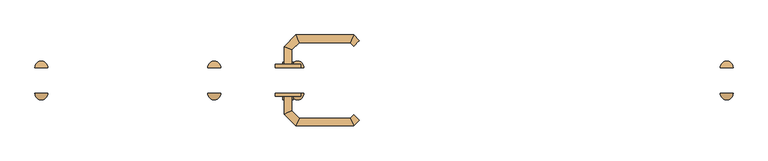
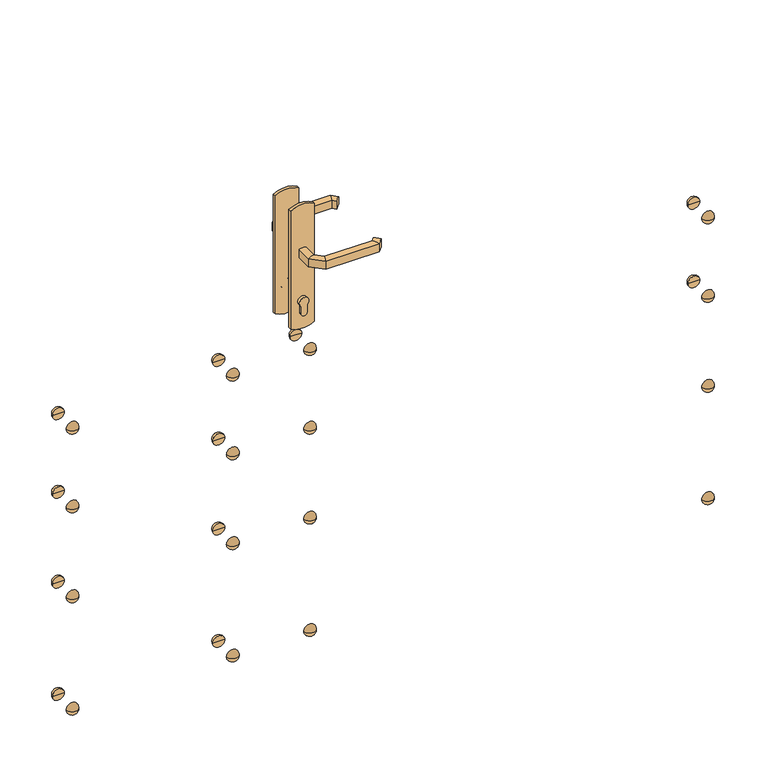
"""IFC4 building model written with IfcOpenShell, lengths in millimetres: door geometry, C&L Quercy tiercée mur simple : 120*275."""

from ifc_helpers import new_model, si_unit, point, frame, frame_2d, origin, place, context, project, spatial, polyline, circle_curve, ellipse_curve, trimmed, segment, composite_curve, outline, extrude, source, transform, mapped, element, save
from ifc_brep_helpers import plane_surface, cylinder_surface, revolved_surface, advanced_brep


def door_9bf19c87(model_context):
    return source(origin(), model_context, "Body", "SolidModel", [
        extrude(outline(composite_curve([segment(polyline([(808.0464422, -355.0), (795.0, -355.0)]), True, "CONTINUOUS"), segment(trimmed(circle_curve(frame_2d((795.0, -350.0)), 5.0), [point((795.0, -355.0))], [point((795.0, -345.0))], False, "CARTESIAN"), True, "CONTINUOUS"), segment(polyline([(795.0, -345.0), (808.0464422, -345.0)]), True, "CONTINUOUS"), segment(trimmed(circle_curve(frame_2d((814.2914402, -350.0)), 8.0), [point((808.0464422, -345.0))], [point((808.0464422, -355.0))], False, "CARTESIAN"), True, "CONTINUOUS")], self_intersect=False)), frame((0.0, 35.0, 0.0), z_axis=(0.0, 1.0, 0.0), x_axis=(0.0, 0.0, 1.0)), (0.0, 0.0, 1.0), 5.0),
        extrude(outline(composite_curve([segment(polyline([(808.0464422, -355.0), (795.0, -355.0)]), True, "CONTINUOUS"), segment(trimmed(circle_curve(frame_2d((795.0, -350.0)), 5.0), [point((795.0, -355.0))], [point((795.0, -345.0))], False, "CARTESIAN"), True, "CONTINUOUS"), segment(polyline([(795.0, -345.0), (808.0464422, -345.0)]), True, "CONTINUOUS"), segment(trimmed(circle_curve(frame_2d((814.2914402, -350.0)), 8.0), [point((808.0464422, -345.0))], [point((808.0464422, -355.0))], False, "CARTESIAN"), True, "CONTINUOUS")], self_intersect=False)), frame((0.0, 90.0, 0.0), z_axis=(0.0, 1.0, 0.0), x_axis=(0.0, 0.0, 1.0)), (0.0, 0.0, 1.0), 3.0),
        advanced_brep(
        [(-344.0, 40.0, 893.0), (-356.0, 40.0, 893.0), (-356.0, 40.0, 907.0), (-344.0, 40.0, 907.0), (-344.0, 17.5147955, 907.0), (-344.0, 17.5147955, 893.0), (-356.0, 12.5442327, 907.0), (-356.0, 12.5442327, 893.0), (-332.5147186, 6.0295141, 907.0), (-332.5147186, 6.0295141, 893.0), (-337.4852814, -5.9704859, 907.0), (-337.4852814, -5.9704859, 893.0), (-252.4394977, 6.0295141, 907.0), (-252.4394977, 6.0295141, 893.0), (-247.468935, -5.9704859, 907.0), (-247.468935, -5.9704859, 893.0), (-247.1257892, 11.3432226, 893.0), (-247.1257892, 11.3432226, 907.0), (-238.6405078, 2.8579412, 907.0), (-238.6405078, 2.8579412, 893.0)],
        [
            (0, 1, circle_curve(frame((-350.0, 40.0, 913.0457722), z_axis=(0.0, 1.0, 0.0), x_axis=(-1.0, 0.0, 0.0)), 20.9244589)),
            (1, 2),
            (2, 3, circle_curve(frame((-350.0, 40.0, 886.9542278), z_axis=(0.0, 1.0, 0.0), x_axis=(-1.0, 0.0, 0.0)), 20.9244589)),
            (3, 0),
            (3, 4),
            (4, 5),
            (5, 0),
            (2, 6),
            (6, 4, ellipse_curve(frame((-350.0, 15.0295141, 886.9542278), z_axis=(-0.3826834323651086, 0.923879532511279, 0.0), x_axis=(0.9238795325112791, 0.3826834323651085, 0.0)), 22.6484711, 20.9244589)),
            (1, 7),
            (7, 6),
            (5, 7, ellipse_curve(frame((-350.0, 15.0295141, 913.0457722), z_axis=(-0.3826834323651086, 0.923879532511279, 0.0), x_axis=(0.9238795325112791, 0.3826834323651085, 0.0)), 22.6484711, 20.9244589)),
            (4, 8),
            (8, 9),
            (9, 5),
            (6, 10),
            (10, 8, ellipse_curve(frame((-335.0, 0.0295141, 886.9542278), z_axis=(-0.9238795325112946, 0.3826834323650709, 0.0), x_axis=(0.3826834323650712, 0.9238795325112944, 0.0)), 22.6484711, 20.9244589)),
            (7, 11),
            (11, 10),
            (9, 11, ellipse_curve(frame((-335.0, 0.0295141, 913.0457722), z_axis=(-0.9238795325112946, 0.3826834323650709, 0.0), x_axis=(0.3826834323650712, 0.9238795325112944, 0.0)), 22.6484711, 20.9244589)),
            (8, 12),
            (12, 13),
            (13, 9),
            (10, 14),
            (14, 12, ellipse_curve(frame((-249.9542163, 0.0295141, 886.9542278), z_axis=(-0.9238795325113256, -0.3826834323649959, 0.0), x_axis=(-0.38268343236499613, 0.9238795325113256, 0.0)), 22.6484711, 20.9244589)),
            (11, 15),
            (15, 14),
            (13, 15, ellipse_curve(frame((-249.9542163, 0.0295141, 913.0457722), z_axis=(-0.9238795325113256, -0.3826834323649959, 0.0), x_axis=(-0.38268343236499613, 0.9238795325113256, 0.0)), 22.6484711, 20.9244589)),
            (16, 17),
            (17, 18, circle_curve(frame((-242.8831485, 7.1005819, 886.9542278), z_axis=(0.7071067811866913, 0.7071067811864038, 0.0), x_axis=(0.7071067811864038, -0.7071067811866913, 0.0)), 20.9244589)),
            (18, 19),
            (19, 16, circle_curve(frame((-242.8831485, 7.1005819, 913.0457722), z_axis=(0.7071067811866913, 0.7071067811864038, 0.0), x_axis=(0.7071067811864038, -0.7071067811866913, 0.0)), 20.9244589)),
            (12, 17),
            (16, 13),
            (14, 18),
            (15, 19),
        ],
        [
            plane_surface(frame((-359.2195445, 40.0, 900.0), z_axis=(0.0, 1.0, 0.0), x_axis=(0.0, 0.0, 1.0))),
            plane_surface(frame((-344.0, 40.0, 893.0), z_axis=(1.0, 0.0, 0.0), x_axis=(0.0, -1.0, 0.0))),
            cylinder_surface(frame((-350.0, 40.0, 886.9542278), z_axis=(0.0, 1.0, 0.0), x_axis=(-1.0, 0.0, 0.0)), 20.9244589),
            plane_surface(frame((-356.0, 40.0, 907.0), z_axis=(-1.0, 0.0, 0.0), x_axis=(0.0, -1.0, 0.0))),
            cylinder_surface(frame((-350.0, 40.0, 913.0457722), z_axis=(0.0, 1.0, 0.0), x_axis=(-1.0, 0.0, 0.0)), 20.9244589),
            plane_surface(frame((-344.0, 17.5147955, 893.0), z_axis=(0.7071067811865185, 0.7071067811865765, 0.0), x_axis=(0.7071067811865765, -0.7071067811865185, 0.0))),
            cylinder_surface(frame((-350.0, 15.0295141, 886.9542278), z_axis=(-0.7071067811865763, 0.7071067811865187, 0.0), x_axis=(-0.7071067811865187, -0.7071067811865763, 0.0)), 20.9244589),
            plane_surface(frame((-356.0, 12.5442327, 907.0), z_axis=(-0.7071067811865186, -0.7071067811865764, 0.0), x_axis=(0.7071067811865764, -0.7071067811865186, 0.0))),
            cylinder_surface(frame((-350.0, 15.0295141, 913.0457722), z_axis=(-0.7071067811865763, 0.7071067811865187, 0.0), x_axis=(-0.7071067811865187, -0.7071067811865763, 0.0)), 20.9244589),
            plane_surface(frame((-332.5147186, 6.0295141, 893.0), z_axis=(0.0, 1.0, 0.0), x_axis=(1.0, 0.0, 0.0))),
            cylinder_surface(frame((-335.0, 0.0295141, 886.9542278), z_axis=(-1.0, 0.0, 0.0), x_axis=(0.0, -1.0, 0.0)), 20.9244589),
            plane_surface(frame((-337.4852814, -5.9704859, 907.0), z_axis=(0.0, -1.0, 0.0), x_axis=(1.0, 0.0, 0.0))),
            cylinder_surface(frame((-335.0, 0.0295141, 913.0457722), z_axis=(-1.0, 0.0, 0.0), x_axis=(0.0, -1.0, 0.0)), 20.9244589),
            plane_surface(frame((-242.8831485, 7.1005819, 890.7804555), z_axis=(0.7071067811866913, 0.7071067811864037, 0.0), x_axis=(0.7071067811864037, -0.7071067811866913, 0.0))),
            plane_surface(frame((-252.4394977, 6.0295141, 893.0), z_axis=(-0.7071067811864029, 0.7071067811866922, 0.0), x_axis=(0.7071067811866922, 0.7071067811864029, 0.0))),
            cylinder_surface(frame((-249.9542163, 0.0295141, 886.9542278), z_axis=(-0.7071067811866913, -0.7071067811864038, 0.0), x_axis=(0.7071067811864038, -0.7071067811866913, 0.0)), 20.9244589),
            plane_surface(frame((-247.468935, -5.9704859, 907.0), z_axis=(0.7071067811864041, -0.7071067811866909, 0.0), x_axis=(0.7071067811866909, 0.7071067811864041, 0.0))),
            cylinder_surface(frame((-249.9542163, 0.0295141, 913.0457722), z_axis=(-0.7071067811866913, -0.7071067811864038, 0.0), x_axis=(0.7071067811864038, -0.7071067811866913, 0.0)), 20.9244589),
        ],
        [
            (0, [[1, 2, 3, 4]]),
            (1, [[5, 6, 7, -4]]),
            (2, [[8, 9, -5, -3]]),
            (3, [[10, 11, -8, -2]]),
            (4, [[-7, 12, -10, -1]]),
            (5, [[13, 14, 15, -6]]),
            (6, [[16, 17, -13, -9]]),
            (7, [[18, 19, -16, -11]]),
            (8, [[-15, 20, -18, -12]]),
            (9, [[21, 22, 23, -14]]),
            (10, [[24, 25, -21, -17]]),
            (11, [[26, 27, -24, -19]]),
            (12, [[-23, 28, -26, -20]]),
            (13, [[29, 30, 31, 32]]),
            (14, [[33, -29, 34, -22]]),
            (15, [[35, -30, -33, -25]]),
            (16, [[36, -31, -35, -27]]),
            (17, [[-34, -32, -36, -28]]),
        ],
    ),
        advanced_brep(
        [(-356.0, 90.0, 907.0), (-356.0, 90.0, 893.0), (-344.0, 90.0, 893.0), (-344.0, 90.0, 907.0), (-344.0, 112.680388, 907.0), (-356.0, 117.6509507, 907.0), (-344.0, 112.680388, 893.0), (-356.0, 117.6509507, 893.0), (-332.6522273, 124.0281607, 907.0), (-337.62279, 136.0281607, 907.0), (-332.6522273, 124.0281607, 893.0), (-337.62279, 136.0281607, 893.0), (-252.4666408, 124.0281607, 907.0), (-247.496078, 136.0281607, 907.0), (-252.4666408, 124.0281607, 893.0), (-247.496078, 136.0281607, 893.0), (-238.6676509, 127.1997336, 907.0), (-247.1529323, 118.7144522, 907.0), (-247.1529323, 118.7144522, 893.0), (-238.6676509, 127.1997336, 893.0)],
        [
            (0, 1),
            (1, 2, circle_curve(frame((-350.0, 90.0, 913.0457722), z_axis=(0.0, -1.0, 0.0), x_axis=(1.0, 0.0, 0.0)), 20.9244589)),
            (2, 3),
            (3, 0, circle_curve(frame((-350.0, 90.0, 886.9542278), z_axis=(0.0, -1.0, 0.0), x_axis=(1.0, 0.0, 0.0)), 20.9244589)),
            (3, 4),
            (4, 5, ellipse_curve(frame((-350.0, 115.1656693, 886.9542278), z_axis=(-0.3826834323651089, -0.9238795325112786, 0.0), x_axis=(0.9238795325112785, -0.3826834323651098, 0.0)), 22.6484711, 20.9244589)),
            (5, 0),
            (2, 6),
            (6, 4),
            (1, 7),
            (7, 6, ellipse_curve(frame((-350.0, 115.1656693, 913.0457722), z_axis=(-0.3826834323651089, -0.9238795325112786, 0.0), x_axis=(0.9238795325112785, -0.3826834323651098, 0.0)), 22.6484711, 20.9244589)),
            (5, 7),
            (4, 8),
            (8, 9, ellipse_curve(frame((-335.1375086, 130.0281607, 886.9542278), z_axis=(-0.9238795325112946, -0.3826834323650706, 0.0), x_axis=(0.3826834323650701, -0.9238795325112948, 0.0)), 22.6484711, 20.9244589)),
            (9, 5),
            (6, 10),
            (10, 8),
            (7, 11),
            (11, 10, ellipse_curve(frame((-335.1375086, 130.0281607, 913.0457722), z_axis=(-0.9238795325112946, -0.3826834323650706, 0.0), x_axis=(0.3826834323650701, -0.9238795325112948, 0.0)), 22.6484711, 20.9244589)),
            (9, 11),
            (8, 12),
            (12, 13, ellipse_curve(frame((-249.9813594, 130.0281607, 886.9542278), z_axis=(-0.9238795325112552, 0.3826834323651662, 0.0), x_axis=(-0.3826834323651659, -0.9238795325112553, 0.0)), 22.6484711, 20.9244589)),
            (13, 9),
            (10, 14),
            (14, 12),
            (11, 15),
            (15, 14, ellipse_curve(frame((-249.9813594, 130.0281607, 913.0457722), z_axis=(-0.9238795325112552, 0.3826834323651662, 0.0), x_axis=(-0.3826834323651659, -0.9238795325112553, 0.0)), 22.6484711, 20.9244589)),
            (13, 15),
            (16, 17, circle_curve(frame((-242.9102916, 122.9570929, 886.9542278), z_axis=(0.7071067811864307, -0.7071067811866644, 0.0), x_axis=(-0.7071067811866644, -0.7071067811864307, 0.0)), 20.9244589)),
            (17, 18),
            (18, 19, circle_curve(frame((-242.9102916, 122.9570929, 913.0457722), z_axis=(0.7071067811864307, -0.7071067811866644, 0.0), x_axis=(-0.7071067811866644, -0.7071067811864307, 0.0)), 20.9244589)),
            (19, 16),
            (12, 17),
            (16, 13),
            (14, 18),
            (15, 19),
        ],
        [
            plane_surface(frame((-359.2195445, 90.0, 900.0), z_axis=(0.0, -1.0, 0.0), x_axis=(0.0, 0.0, -1.0))),
            cylinder_surface(frame((-350.0, 90.0, 886.9542278), z_axis=(0.0, -1.0, 0.0), x_axis=(1.0, 0.0, 0.0)), 20.9244589),
            plane_surface(frame((-344.0, 90.0, 907.0), z_axis=(1.0, 0.0, 0.0), x_axis=(0.0, 1.0, 0.0))),
            cylinder_surface(frame((-350.0, 90.0, 913.0457722), z_axis=(0.0, -1.0, 0.0), x_axis=(1.0, 0.0, 0.0)), 20.9244589),
            plane_surface(frame((-356.0, 90.0, 893.0), z_axis=(-1.0, 0.0, 0.0), x_axis=(0.0, 1.0, 0.0))),
            cylinder_surface(frame((-350.0, 115.1656693, 886.9542278), z_axis=(-0.7071067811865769, -0.7071067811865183, 0.0), x_axis=(0.7071067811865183, -0.7071067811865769, 0.0)), 20.9244589),
            plane_surface(frame((-344.0, 112.680388, 907.0), z_axis=(0.707106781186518, -0.7071067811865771, 0.0), x_axis=(0.7071067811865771, 0.707106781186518, 0.0))),
            cylinder_surface(frame((-350.0, 115.1656693, 913.0457722), z_axis=(-0.7071067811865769, -0.7071067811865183, 0.0), x_axis=(0.7071067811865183, -0.7071067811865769, 0.0)), 20.9244589),
            plane_surface(frame((-356.0, 117.6509507, 893.0), z_axis=(-0.7071067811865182, 0.7071067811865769, 0.0), x_axis=(0.7071067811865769, 0.7071067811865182, 0.0))),
            cylinder_surface(frame((-335.1375086, 130.0281607, 886.9542278), z_axis=(-1.0, 0.0, 0.0), x_axis=(0.0, -1.0, 0.0)), 20.9244589),
            plane_surface(frame((-332.6522273, 124.0281607, 907.0), z_axis=(0.0, -1.0, 0.0), x_axis=(1.0, 0.0, 0.0))),
            cylinder_surface(frame((-335.1375086, 130.0281607, 913.0457722), z_axis=(-1.0, 0.0, 0.0), x_axis=(0.0, -1.0, 0.0)), 20.9244589),
            plane_surface(frame((-337.62279, 136.0281607, 893.0), z_axis=(0.0, 1.0, 0.0), x_axis=(1.0, 0.0, 0.0))),
            plane_surface(frame((-242.9102916, 122.9570929, 909.2195445), z_axis=(0.7071067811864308, -0.7071067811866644, 0.0), x_axis=(0.7071067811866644, 0.7071067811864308, 0.0))),
            cylinder_surface(frame((-249.9813594, 130.0281607, 886.9542278), z_axis=(-0.7071067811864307, 0.7071067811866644, 0.0), x_axis=(-0.7071067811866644, -0.7071067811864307, 0.0)), 20.9244589),
            plane_surface(frame((-252.4666408, 124.0281607, 907.0), z_axis=(-0.7071067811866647, -0.7071067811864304, 0.0), x_axis=(0.7071067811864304, -0.7071067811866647, 0.0))),
            cylinder_surface(frame((-249.9813594, 130.0281607, 913.0457722), z_axis=(-0.7071067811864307, 0.7071067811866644, 0.0), x_axis=(-0.7071067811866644, -0.7071067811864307, 0.0)), 20.9244589),
            plane_surface(frame((-247.496078, 136.0281607, 893.0), z_axis=(0.7071067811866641, 0.707106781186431, 0.0), x_axis=(0.707106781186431, -0.7071067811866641, 0.0))),
        ],
        [
            (0, [[1, 2, 3, 4]]),
            (1, [[5, 6, 7, -4]]),
            (2, [[8, 9, -5, -3]]),
            (3, [[10, 11, -8, -2]]),
            (4, [[-7, 12, -10, -1]]),
            (5, [[13, 14, 15, -6]]),
            (6, [[16, 17, -13, -9]]),
            (7, [[18, 19, -16, -11]]),
            (8, [[-15, 20, -18, -12]]),
            (9, [[21, 22, 23, -14]]),
            (10, [[24, 25, -21, -17]]),
            (11, [[26, 27, -24, -19]]),
            (12, [[-23, 28, -26, -20]]),
            (13, [[29, 30, 31, 32]]),
            (14, [[33, -29, 34, -22]]),
            (15, [[35, -30, -33, -25]]),
            (16, [[36, -31, -35, -27]]),
            (17, [[-34, -32, -36, -28]]),
        ],
    ),
        extrude(outline(composite_curve([segment(trimmed(circle_curve(frame_2d((945.3589838, -350.0)), 40.0), [point((980.0, -330.0))], [point((980.0, -370.0))], False, "CARTESIAN"), True, "CONTINUOUS"), segment(polyline([(980.0, -370.0), (770.0, -370.0)]), True, "CONTINUOUS"), segment(trimmed(circle_curve(frame_2d((804.6410162, -350.0)), 40.0), [point((770.0, -370.0))], [point((770.0, -330.0))], False, "CARTESIAN"), True, "CONTINUOUS"), segment(polyline([(770.0, -330.0), (980.0, -330.0)]), True, "CONTINUOUS")], self_intersect=False)), frame((0.0, 40.0, 0.0), z_axis=(0.0, 1.0, 0.0), x_axis=(0.0, 0.0, 1.0)), (0.0, 0.0, 1.0), 5.0),
        extrude(outline(composite_curve([segment(trimmed(circle_curve(frame_2d((804.6410162, -350.0)), 40.0), [point((770.0, -370.0))], [point((770.0, -330.0))], False, "CARTESIAN"), True, "CONTINUOUS"), segment(polyline([(770.0, -330.0), (980.0, -330.0)]), True, "CONTINUOUS"), segment(trimmed(circle_curve(frame_2d((945.3589838, -350.0)), 40.0), [point((980.0, -330.0))], [point((980.0, -370.0))], False, "CARTESIAN"), True, "CONTINUOUS"), segment(polyline([(980.0, -370.0), (770.0, -370.0)]), True, "CONTINUOUS")], self_intersect=False)), frame((0.0, 85.0, 0.0), z_axis=(0.0, 1.0, 0.0), x_axis=(0.0, 0.0, 1.0)), (0.0, 0.0, 1.0), 5.0),
        advanced_brep(
        [(-725.0, 85.0, 720.0), (-735.0, 85.0, 720.0), (-745.0, 85.0, 720.0), (-735.0, 95.0, 720.0)],
        [
            (0, 1),
            (1, 2),
            (2, 0, circle_curve(frame((-735.0, 85.0, 720.0), z_axis=(0.0, -1.0, 0.0), x_axis=(-1.0, 0.0, 0.0)), 10.0)),
            (0, 2, circle_curve(frame((-735.0, 85.0, 720.0), z_axis=(0.0, -1.0, 0.0), x_axis=(-1.0, 0.0, 0.0)), 10.0)),
            (3, 0, circle_curve(frame((-735.0, 85.0, 720.0), z_axis=(0.0, 0.0, -1.0), x_axis=(0.0, 1.0, 0.0)), 10.0)),
            (2, 3, circle_curve(frame((-735.0, 85.0, 720.0), z_axis=(0.0, 0.0, -1.0), x_axis=(0.0, 1.0, 0.0)), 10.0)),
        ],
        [
            plane_surface(frame((-735.0, 85.0, 720.0), z_axis=(0.0, -1.0, 0.0), x_axis=(-1.0, 0.0, 0.0))),
            revolved_surface(trimmed(ellipse_curve(frame((-735.0, 85.0, 720.0), z_axis=(0.0, 0.0, -1.0), x_axis=(0.0, 1.0, 0.0)), 10.0, 10.0), [point((-745.0, 85.0, 720.0))], [point((-735.0, 95.0, 720.0))], True, "CARTESIAN"), (-735.0, -463.130768, 720.0), (0.0, 1.0, 0.0)),
        ],
        [
            (0, [[1, 2, 3]]),
            (0, [[-2, -1, 4]]),
            (1, [[5, -3, 6]]),
            (1, [[-6, -4, -5]]),
        ],
    ),
        advanced_brep(
        [(-735.0, 95.0, 580.0), (-725.0, 85.0, 580.0), (-745.0, 85.0, 580.0), (-735.0, 85.0, 580.0)],
        [
            (0, 1, circle_curve(frame((-735.0, 85.0, 580.0), z_axis=(0.0, 0.0, -1.0), x_axis=(0.0, 1.0, 0.0)), 10.0)),
            (1, 2, circle_curve(frame((-735.0, 85.0, 580.0), z_axis=(0.0, 1.0, 0.0), x_axis=(-1.0, 0.0, 0.0)), 10.0)),
            (2, 0, circle_curve(frame((-735.0, 85.0, 580.0), z_axis=(0.0, 0.0, -1.0), x_axis=(0.0, 1.0, 0.0)), 10.0)),
            (2, 1, circle_curve(frame((-735.0, 85.0, 580.0), z_axis=(0.0, 1.0, 0.0), x_axis=(-1.0, 0.0, 0.0)), 10.0)),
            (1, 3),
            (3, 2),
        ],
        [
            revolved_surface(trimmed(ellipse_curve(frame((-735.0, 85.0, 580.0), z_axis=(0.0, 0.0, -1.0), x_axis=(0.0, 1.0, 0.0)), 10.0, 10.0), [point((-745.0, 85.0, 580.0))], [point((-735.0, 95.0, 580.0))], True, "CARTESIAN"), (-735.0, -463.130768, 580.0), (0.0, 1.0, 0.0)),
            plane_surface(frame((-735.0, 85.0, 580.0), z_axis=(0.0, -1.0, 0.0), x_axis=(-1.0, 0.0, 0.0))),
        ],
        [
            (0, [[1, 2, 3]]),
            (0, [[-3, 4, -1]]),
            (1, [[5, 6, -2]]),
            (1, [[-6, -5, -4]]),
        ],
    ),
        advanced_brep(
        [(-725.0, 85.0, 420.0), (-735.0, 85.0, 420.0), (-745.0, 85.0, 420.0), (-735.0, 95.0, 420.0)],
        [
            (0, 1),
            (1, 2),
            (2, 0, circle_curve(frame((-735.0, 85.0, 420.0), z_axis=(0.0, -1.0, 0.0), x_axis=(-1.0, 0.0, 0.0)), 10.0)),
            (0, 2, circle_curve(frame((-735.0, 85.0, 420.0), z_axis=(0.0, -1.0, 0.0), x_axis=(-1.0, 0.0, 0.0)), 10.0)),
            (3, 0, circle_curve(frame((-735.0, 85.0, 420.0), z_axis=(0.0, 0.0, -1.0), x_axis=(0.0, 1.0, 0.0)), 10.0)),
            (2, 3, circle_curve(frame((-735.0, 85.0, 420.0), z_axis=(0.0, 0.0, -1.0), x_axis=(0.0, 1.0, 0.0)), 10.0)),
        ],
        [
            plane_surface(frame((-735.0, 85.0, 420.0), z_axis=(0.0, -1.0, 0.0), x_axis=(-1.0, 0.0, 0.0))),
            revolved_surface(trimmed(ellipse_curve(frame((-735.0, 85.0, 420.0), z_axis=(0.0, 0.0, -1.0), x_axis=(0.0, 1.0, 0.0)), 10.0, 10.0), [point((-745.0, 85.0, 420.0))], [point((-735.0, 95.0, 420.0))], True, "CARTESIAN"), (-735.0, -463.130768, 420.0), (0.0, 1.0, 0.0)),
        ],
        [
            (0, [[1, 2, 3]]),
            (0, [[-2, -1, 4]]),
            (1, [[5, -3, 6]]),
            (1, [[-6, -4, -5]]),
        ],
    ),
        advanced_brep(
        [(-725.0, 85.0, 220.0), (-735.0, 85.0, 220.0), (-745.0, 85.0, 220.0), (-735.0, 95.0, 220.0)],
        [
            (0, 1),
            (1, 2),
            (2, 0, circle_curve(frame((-735.0, 85.0, 220.0), z_axis=(0.0, -1.0, 0.0), x_axis=(-1.0, 0.0, 0.0)), 10.0)),
            (0, 2, circle_curve(frame((-735.0, 85.0, 220.0), z_axis=(0.0, -1.0, 0.0), x_axis=(-1.0, 0.0, 0.0)), 10.0)),
            (3, 0, circle_curve(frame((-735.0, 85.0, 220.0), z_axis=(0.0, 0.0, -1.0), x_axis=(0.0, 1.0, 0.0)), 10.0)),
            (2, 3, circle_curve(frame((-735.0, 85.0, 220.0), z_axis=(0.0, 0.0, -1.0), x_axis=(0.0, 1.0, 0.0)), 10.0)),
        ],
        [
            plane_surface(frame((-735.0, 85.0, 220.0), z_axis=(0.0, -1.0, 0.0), x_axis=(-1.0, 0.0, 0.0))),
            revolved_surface(trimmed(ellipse_curve(frame((-735.0, 85.0, 220.0), z_axis=(0.0, 0.0, -1.0), x_axis=(0.0, 1.0, 0.0)), 10.0, 10.0), [point((-745.0, 85.0, 220.0))], [point((-735.0, 95.0, 220.0))], True, "CARTESIAN"), (-735.0, -463.130768, 220.0), (0.0, 1.0, 0.0)),
        ],
        [
            (0, [[1, 2, 3]]),
            (0, [[-2, -1, 4]]),
            (1, [[5, -3, 6]]),
            (1, [[-6, -4, -5]]),
        ],
    ),
        advanced_brep(
        [(-455.0, 85.0, 720.0), (-465.0, 85.0, 720.0), (-475.0, 85.0, 720.0), (-465.0, 95.0, 720.0)],
        [
            (0, 1),
            (1, 2),
            (2, 0, circle_curve(frame((-465.0, 85.0, 720.0), z_axis=(0.0, -1.0, 0.0), x_axis=(-1.0, 0.0, 0.0)), 10.0)),
            (0, 2, circle_curve(frame((-465.0, 85.0, 720.0), z_axis=(0.0, -1.0, 0.0), x_axis=(-1.0, 0.0, 0.0)), 10.0)),
            (3, 0, circle_curve(frame((-465.0, 85.0, 720.0), z_axis=(0.0, 0.0, -1.0), x_axis=(0.0, 1.0, 0.0)), 10.0)),
            (2, 3, circle_curve(frame((-465.0, 85.0, 720.0), z_axis=(0.0, 0.0, -1.0), x_axis=(0.0, 1.0, 0.0)), 10.0)),
        ],
        [
            plane_surface(frame((-465.0, 85.0, 720.0), z_axis=(0.0, -1.0, 0.0), x_axis=(-1.0, 0.0, 0.0))),
            revolved_surface(trimmed(ellipse_curve(frame((-465.0, 85.0, 720.0), z_axis=(0.0, 0.0, -1.0), x_axis=(0.0, 1.0, 0.0)), 10.0, 10.0), [point((-475.0, 85.0, 720.0))], [point((-465.0, 95.0, 720.0))], True, "CARTESIAN"), (-465.0, -463.130768, 720.0), (0.0, 1.0, 0.0)),
        ],
        [
            (0, [[1, 2, 3]]),
            (0, [[-2, -1, 4]]),
            (1, [[5, -3, 6]]),
            (1, [[-6, -4, -5]]),
        ],
    ),
        advanced_brep(
        [(-465.0, 95.0, 580.0), (-455.0, 85.0, 580.0), (-475.0, 85.0, 580.0), (-465.0, 85.0, 580.0)],
        [
            (0, 1, circle_curve(frame((-465.0, 85.0, 580.0), z_axis=(0.0, 0.0, -1.0), x_axis=(0.0, 1.0, 0.0)), 10.0)),
            (1, 2, circle_curve(frame((-465.0, 85.0, 580.0), z_axis=(0.0, 1.0, 0.0), x_axis=(-1.0, 0.0, 0.0)), 10.0)),
            (2, 0, circle_curve(frame((-465.0, 85.0, 580.0), z_axis=(0.0, 0.0, -1.0), x_axis=(0.0, 1.0, 0.0)), 10.0)),
            (2, 1, circle_curve(frame((-465.0, 85.0, 580.0), z_axis=(0.0, 1.0, 0.0), x_axis=(-1.0, 0.0, 0.0)), 10.0)),
            (1, 3),
            (3, 2),
        ],
        [
            revolved_surface(trimmed(ellipse_curve(frame((-465.0, 85.0, 580.0), z_axis=(0.0, 0.0, -1.0), x_axis=(0.0, 1.0, 0.0)), 10.0, 10.0), [point((-475.0, 85.0, 580.0))], [point((-465.0, 95.0, 580.0))], True, "CARTESIAN"), (-465.0, -463.130768, 580.0), (0.0, 1.0, 0.0)),
            plane_surface(frame((-465.0, 85.0, 580.0), z_axis=(0.0, -1.0, 0.0), x_axis=(-1.0, 0.0, 0.0))),
        ],
        [
            (0, [[1, 2, 3]]),
            (0, [[-3, 4, -1]]),
            (1, [[5, 6, -2]]),
            (1, [[-6, -5, -4]]),
        ],
    ),
        advanced_brep(
        [(-455.0, 85.0, 420.0), (-465.0, 85.0, 420.0), (-475.0, 85.0, 420.0), (-465.0, 95.0, 420.0)],
        [
            (0, 1),
            (1, 2),
            (2, 0, circle_curve(frame((-465.0, 85.0, 420.0), z_axis=(0.0, -1.0, 0.0), x_axis=(-1.0, 0.0, 0.0)), 10.0)),
            (0, 2, circle_curve(frame((-465.0, 85.0, 420.0), z_axis=(0.0, -1.0, 0.0), x_axis=(-1.0, 0.0, 0.0)), 10.0)),
            (3, 0, circle_curve(frame((-465.0, 85.0, 420.0), z_axis=(0.0, 0.0, -1.0), x_axis=(0.0, 1.0, 0.0)), 10.0)),
            (2, 3, circle_curve(frame((-465.0, 85.0, 420.0), z_axis=(0.0, 0.0, -1.0), x_axis=(0.0, 1.0, 0.0)), 10.0)),
        ],
        [
            plane_surface(frame((-465.0, 85.0, 420.0), z_axis=(0.0, -1.0, 0.0), x_axis=(-1.0, 0.0, 0.0))),
            revolved_surface(trimmed(ellipse_curve(frame((-465.0, 85.0, 420.0), z_axis=(0.0, 0.0, -1.0), x_axis=(0.0, 1.0, 0.0)), 10.0, 10.0), [point((-475.0, 85.0, 420.0))], [point((-465.0, 95.0, 420.0))], True, "CARTESIAN"), (-465.0, -463.130768, 420.0), (0.0, 1.0, 0.0)),
        ],
        [
            (0, [[1, 2, 3]]),
            (0, [[-2, -1, 4]]),
            (1, [[5, -3, 6]]),
            (1, [[-6, -4, -5]]),
        ],
    ),
        advanced_brep(
        [(-455.0, 85.0, 220.0), (-465.0, 85.0, 220.0), (-475.0, 85.0, 220.0), (-465.0, 95.0, 220.0)],
        [
            (0, 1),
            (1, 2),
            (2, 0, circle_curve(frame((-465.0, 85.0, 220.0), z_axis=(0.0, -1.0, 0.0), x_axis=(-1.0, 0.0, 0.0)), 10.0)),
            (0, 2, circle_curve(frame((-465.0, 85.0, 220.0), z_axis=(0.0, -1.0, 0.0), x_axis=(-1.0, 0.0, 0.0)), 10.0)),
            (3, 0, circle_curve(frame((-465.0, 85.0, 220.0), z_axis=(0.0, 0.0, -1.0), x_axis=(0.0, 1.0, 0.0)), 10.0)),
            (2, 3, circle_curve(frame((-465.0, 85.0, 220.0), z_axis=(0.0, 0.0, -1.0), x_axis=(0.0, 1.0, 0.0)), 10.0)),
        ],
        [
            plane_surface(frame((-465.0, 85.0, 220.0), z_axis=(0.0, -1.0, 0.0), x_axis=(-1.0, 0.0, 0.0))),
            revolved_surface(trimmed(ellipse_curve(frame((-465.0, 85.0, 220.0), z_axis=(0.0, 0.0, -1.0), x_axis=(0.0, 1.0, 0.0)), 10.0, 10.0), [point((-475.0, 85.0, 220.0))], [point((-465.0, 95.0, 220.0))], True, "CARTESIAN"), (-465.0, -463.130768, 220.0), (0.0, 1.0, 0.0)),
        ],
        [
            (0, [[1, 2, 3]]),
            (0, [[-2, -1, 4]]),
            (1, [[5, -3, 6]]),
            (1, [[-6, -4, -5]]),
        ],
    ),
        advanced_brep(
        [(-735.0, 35.0, 720.0), (-745.0, 45.0, 720.0), (-725.0, 45.0, 720.0), (-735.0, 45.0, 720.0)],
        [
            (0, 1, circle_curve(frame((-735.0, 45.0, 720.0), z_axis=(0.0, 0.0, -1.0), x_axis=(0.0, 1.0, 0.0)), 10.0)),
            (1, 2, circle_curve(frame((-735.0, 45.0, 720.0), z_axis=(0.0, -1.0, 0.0), x_axis=(1.0, 0.0, 0.0)), 10.0)),
            (2, 0, circle_curve(frame((-735.0, 45.0, 720.0), z_axis=(0.0, 0.0, -1.0), x_axis=(0.0, 1.0, 0.0)), 10.0)),
            (2, 1, circle_curve(frame((-735.0, 45.0, 720.0), z_axis=(0.0, -1.0, 0.0), x_axis=(1.0, 0.0, 0.0)), 10.0)),
            (1, 3),
            (3, 2),
        ],
        [
            revolved_surface(trimmed(ellipse_curve(frame((-735.0, 45.0, 720.0), z_axis=(0.0, 0.0, -1.0), x_axis=(0.0, 1.0, 0.0)), 10.0, 10.0), [point((-725.0, 45.0, 720.0))], [point((-735.0, 35.0, 720.0))], True, "CARTESIAN"), (-735.0, -463.130768, 720.0), (0.0, -1.0, 0.0)),
            plane_surface(frame((-735.0, 45.0, 720.0), z_axis=(0.0, 1.0, 0.0), x_axis=(1.0, 0.0, 0.0))),
        ],
        [
            (0, [[1, 2, 3]]),
            (0, [[-3, 4, -1]]),
            (1, [[5, 6, -2]]),
            (1, [[-6, -5, -4]]),
        ],
    ),
        advanced_brep(
        [(-735.0, 35.0, 580.0), (-745.0, 45.0, 580.0), (-725.0, 45.0, 580.0), (-735.0, 45.0, 580.0)],
        [
            (0, 1, circle_curve(frame((-735.0, 45.0, 580.0), z_axis=(0.0, 0.0, -1.0), x_axis=(0.0, 1.0, 0.0)), 10.0)),
            (1, 2, circle_curve(frame((-735.0, 45.0, 580.0), z_axis=(0.0, -1.0, 0.0), x_axis=(1.0, 0.0, 0.0)), 10.0)),
            (2, 0, circle_curve(frame((-735.0, 45.0, 580.0), z_axis=(0.0, 0.0, -1.0), x_axis=(0.0, 1.0, 0.0)), 10.0)),
            (2, 1, circle_curve(frame((-735.0, 45.0, 580.0), z_axis=(0.0, -1.0, 0.0), x_axis=(1.0, 0.0, 0.0)), 10.0)),
            (1, 3),
            (3, 2),
        ],
        [
            revolved_surface(trimmed(ellipse_curve(frame((-735.0, 45.0, 580.0), z_axis=(0.0, 0.0, -1.0), x_axis=(0.0, 1.0, 0.0)), 10.0, 10.0), [point((-725.0, 45.0, 580.0))], [point((-735.0, 35.0, 580.0))], True, "CARTESIAN"), (-735.0, -463.130768, 580.0), (0.0, -1.0, 0.0)),
            plane_surface(frame((-735.0, 45.0, 580.0), z_axis=(0.0, 1.0, 0.0), x_axis=(1.0, 0.0, 0.0))),
        ],
        [
            (0, [[1, 2, 3]]),
            (0, [[-3, 4, -1]]),
            (1, [[5, 6, -2]]),
            (1, [[-6, -5, -4]]),
        ],
    ),
        advanced_brep(
        [(-735.0, 35.0, 420.0), (-745.0, 45.0, 420.0), (-725.0, 45.0, 420.0), (-735.0, 45.0, 420.0)],
        [
            (0, 1, circle_curve(frame((-735.0, 45.0, 420.0), z_axis=(0.0, 0.0, -1.0), x_axis=(0.0, 1.0, 0.0)), 10.0)),
            (1, 2, circle_curve(frame((-735.0, 45.0, 420.0), z_axis=(0.0, -1.0, 0.0), x_axis=(1.0, 0.0, 0.0)), 10.0)),
            (2, 0, circle_curve(frame((-735.0, 45.0, 420.0), z_axis=(0.0, 0.0, -1.0), x_axis=(0.0, 1.0, 0.0)), 10.0)),
            (2, 1, circle_curve(frame((-735.0, 45.0, 420.0), z_axis=(0.0, -1.0, 0.0), x_axis=(1.0, 0.0, 0.0)), 10.0)),
            (1, 3),
            (3, 2),
        ],
        [
            revolved_surface(trimmed(ellipse_curve(frame((-735.0, 45.0, 420.0), z_axis=(0.0, 0.0, -1.0), x_axis=(0.0, 1.0, 0.0)), 10.0, 10.0), [point((-725.0, 45.0, 420.0))], [point((-735.0, 35.0, 420.0))], True, "CARTESIAN"), (-735.0, -463.130768, 420.0), (0.0, -1.0, 0.0)),
            plane_surface(frame((-735.0, 45.0, 420.0), z_axis=(0.0, 1.0, 0.0), x_axis=(1.0, 0.0, 0.0))),
        ],
        [
            (0, [[1, 2, 3]]),
            (0, [[-3, 4, -1]]),
            (1, [[5, 6, -2]]),
            (1, [[-6, -5, -4]]),
        ],
    ),
        advanced_brep(
        [(-745.0, 45.0, 220.0), (-735.0, 45.0, 220.0), (-725.0, 45.0, 220.0), (-735.0, 35.0, 220.0)],
        [
            (0, 1),
            (1, 2),
            (2, 0, circle_curve(frame((-735.0, 45.0, 220.0), z_axis=(0.0, 1.0, 0.0), x_axis=(1.0, 0.0, 0.0)), 10.0)),
            (0, 2, circle_curve(frame((-735.0, 45.0, 220.0), z_axis=(0.0, 1.0, 0.0), x_axis=(1.0, 0.0, 0.0)), 10.0)),
            (3, 0, circle_curve(frame((-735.0, 45.0, 220.0), z_axis=(0.0, 0.0, -1.0), x_axis=(0.0, 1.0, 0.0)), 10.0)),
            (2, 3, circle_curve(frame((-735.0, 45.0, 220.0), z_axis=(0.0, 0.0, -1.0), x_axis=(0.0, 1.0, 0.0)), 10.0)),
        ],
        [
            plane_surface(frame((-735.0, 45.0, 220.0), z_axis=(0.0, 1.0, 0.0), x_axis=(1.0, 0.0, 0.0))),
            revolved_surface(trimmed(ellipse_curve(frame((-735.0, 45.0, 220.0), z_axis=(0.0, 0.0, -1.0), x_axis=(0.0, 1.0, 0.0)), 10.0, 10.0), [point((-725.0, 45.0, 220.0))], [point((-735.0, 35.0, 220.0))], True, "CARTESIAN"), (-735.0, -463.130768, 220.0), (0.0, -1.0, 0.0)),
        ],
        [
            (0, [[1, 2, 3]]),
            (0, [[-2, -1, 4]]),
            (1, [[5, -3, 6]]),
            (1, [[-6, -4, -5]]),
        ],
    ),
        advanced_brep(
        [(-465.0, 35.0, 720.0), (-475.0, 45.0, 720.0), (-455.0, 45.0, 720.0), (-465.0, 45.0, 720.0)],
        [
            (0, 1, circle_curve(frame((-465.0, 45.0, 720.0), z_axis=(0.0, 0.0, -1.0), x_axis=(0.0, 1.0, 0.0)), 10.0)),
            (1, 2, circle_curve(frame((-465.0, 45.0, 720.0), z_axis=(0.0, -1.0, 0.0), x_axis=(1.0, 0.0, 0.0)), 10.0)),
            (2, 0, circle_curve(frame((-465.0, 45.0, 720.0), z_axis=(0.0, 0.0, -1.0), x_axis=(0.0, 1.0, 0.0)), 10.0)),
            (2, 1, circle_curve(frame((-465.0, 45.0, 720.0), z_axis=(0.0, -1.0, 0.0), x_axis=(1.0, 0.0, 0.0)), 10.0)),
            (1, 3),
            (3, 2),
        ],
        [
            revolved_surface(trimmed(ellipse_curve(frame((-465.0, 45.0, 720.0), z_axis=(0.0, 0.0, -1.0), x_axis=(0.0, 1.0, 0.0)), 10.0, 10.0), [point((-455.0, 45.0, 720.0))], [point((-465.0, 35.0, 720.0))], True, "CARTESIAN"), (-465.0, -463.130768, 720.0), (0.0, -1.0, 0.0)),
            plane_surface(frame((-465.0, 45.0, 720.0), z_axis=(0.0, 1.0, 0.0), x_axis=(1.0, 0.0, 0.0))),
        ],
        [
            (0, [[1, 2, 3]]),
            (0, [[-3, 4, -1]]),
            (1, [[5, 6, -2]]),
            (1, [[-6, -5, -4]]),
        ],
    ),
        advanced_brep(
        [(-465.0, 35.0, 580.0), (-475.0, 45.0, 580.0), (-455.0, 45.0, 580.0), (-465.0, 45.0, 580.0)],
        [
            (0, 1, circle_curve(frame((-465.0, 45.0, 580.0), z_axis=(0.0, 0.0, -1.0), x_axis=(0.0, 1.0, 0.0)), 10.0)),
            (1, 2, circle_curve(frame((-465.0, 45.0, 580.0), z_axis=(0.0, -1.0, 0.0), x_axis=(1.0, 0.0, 0.0)), 10.0)),
            (2, 0, circle_curve(frame((-465.0, 45.0, 580.0), z_axis=(0.0, 0.0, -1.0), x_axis=(0.0, 1.0, 0.0)), 10.0)),
            (2, 1, circle_curve(frame((-465.0, 45.0, 580.0), z_axis=(0.0, -1.0, 0.0), x_axis=(1.0, 0.0, 0.0)), 10.0)),
            (1, 3),
            (3, 2),
        ],
        [
            revolved_surface(trimmed(ellipse_curve(frame((-465.0, 45.0, 580.0), z_axis=(0.0, 0.0, -1.0), x_axis=(0.0, 1.0, 0.0)), 10.0, 10.0), [point((-455.0, 45.0, 580.0))], [point((-465.0, 35.0, 580.0))], True, "CARTESIAN"), (-465.0, -463.130768, 580.0), (0.0, -1.0, 0.0)),
            plane_surface(frame((-465.0, 45.0, 580.0), z_axis=(0.0, 1.0, 0.0), x_axis=(1.0, 0.0, 0.0))),
        ],
        [
            (0, [[1, 2, 3]]),
            (0, [[-3, 4, -1]]),
            (1, [[5, 6, -2]]),
            (1, [[-6, -5, -4]]),
        ],
    ),
        advanced_brep(
        [(-465.0, 35.0, 420.0), (-475.0, 45.0, 420.0), (-455.0, 45.0, 420.0), (-465.0, 45.0, 420.0)],
        [
            (0, 1, circle_curve(frame((-465.0, 45.0, 420.0), z_axis=(0.0, 0.0, -1.0), x_axis=(0.0, 1.0, 0.0)), 10.0)),
            (1, 2, circle_curve(frame((-465.0, 45.0, 420.0), z_axis=(0.0, -1.0, 0.0), x_axis=(1.0, 0.0, 0.0)), 10.0)),
            (2, 0, circle_curve(frame((-465.0, 45.0, 420.0), z_axis=(0.0, 0.0, -1.0), x_axis=(0.0, 1.0, 0.0)), 10.0)),
            (2, 1, circle_curve(frame((-465.0, 45.0, 420.0), z_axis=(0.0, -1.0, 0.0), x_axis=(1.0, 0.0, 0.0)), 10.0)),
            (1, 3),
            (3, 2),
        ],
        [
            revolved_surface(trimmed(ellipse_curve(frame((-465.0, 45.0, 420.0), z_axis=(0.0, 0.0, -1.0), x_axis=(0.0, 1.0, 0.0)), 10.0, 10.0), [point((-455.0, 45.0, 420.0))], [point((-465.0, 35.0, 420.0))], True, "CARTESIAN"), (-465.0, -463.130768, 420.0), (0.0, -1.0, 0.0)),
            plane_surface(frame((-465.0, 45.0, 420.0), z_axis=(0.0, 1.0, 0.0), x_axis=(1.0, 0.0, 0.0))),
        ],
        [
            (0, [[1, 2, 3]]),
            (0, [[-3, 4, -1]]),
            (1, [[5, 6, -2]]),
            (1, [[-6, -5, -4]]),
        ],
    ),
        advanced_brep(
        [(-475.0, 45.0, 220.0), (-465.0, 45.0, 220.0), (-455.0, 45.0, 220.0), (-465.0, 35.0, 220.0)],
        [
            (0, 1),
            (1, 2),
            (2, 0, circle_curve(frame((-465.0, 45.0, 220.0), z_axis=(0.0, 1.0, 0.0), x_axis=(1.0, 0.0, 0.0)), 10.0)),
            (0, 2, circle_curve(frame((-465.0, 45.0, 220.0), z_axis=(0.0, 1.0, 0.0), x_axis=(1.0, 0.0, 0.0)), 10.0)),
            (3, 0, circle_curve(frame((-465.0, 45.0, 220.0), z_axis=(0.0, 0.0, -1.0), x_axis=(0.0, 1.0, 0.0)), 10.0)),
            (2, 3, circle_curve(frame((-465.0, 45.0, 220.0), z_axis=(0.0, 0.0, -1.0), x_axis=(0.0, 1.0, 0.0)), 10.0)),
        ],
        [
            plane_surface(frame((-465.0, 45.0, 220.0), z_axis=(0.0, 1.0, 0.0), x_axis=(1.0, 0.0, 0.0))),
            revolved_surface(trimmed(ellipse_curve(frame((-465.0, 45.0, 220.0), z_axis=(0.0, 0.0, -1.0), x_axis=(0.0, 1.0, 0.0)), 10.0, 10.0), [point((-455.0, 45.0, 220.0))], [point((-465.0, 35.0, 220.0))], True, "CARTESIAN"), (-465.0, -463.130768, 220.0), (0.0, -1.0, 0.0)),
        ],
        [
            (0, [[1, 2, 3]]),
            (0, [[-2, -1, 4]]),
            (1, [[5, -3, 6]]),
            (1, [[-6, -4, -5]]),
        ],
    ),
        advanced_brep(
        [(-335.0, 35.0, 720.0), (-345.0, 45.0, 720.0), (-325.0, 45.0, 720.0), (-335.0, 45.0, 720.0)],
        [
            (0, 1, circle_curve(frame((-335.0, 45.0, 720.0), z_axis=(0.0, 0.0, -1.0), x_axis=(0.0, 1.0, 0.0)), 10.0)),
            (1, 2, circle_curve(frame((-335.0, 45.0, 720.0), z_axis=(0.0, -1.0, 0.0), x_axis=(1.0, 0.0, 0.0)), 10.0)),
            (2, 0, circle_curve(frame((-335.0, 45.0, 720.0), z_axis=(0.0, 0.0, -1.0), x_axis=(0.0, 1.0, 0.0)), 10.0)),
            (2, 1, circle_curve(frame((-335.0, 45.0, 720.0), z_axis=(0.0, -1.0, 0.0), x_axis=(1.0, 0.0, 0.0)), 10.0)),
            (1, 3),
            (3, 2),
        ],
        [
            revolved_surface(trimmed(ellipse_curve(frame((-335.0, 45.0, 720.0), z_axis=(0.0, 0.0, -1.0), x_axis=(0.0, 1.0, 0.0)), 10.0, 10.0), [point((-325.0, 45.0, 720.0))], [point((-335.0, 35.0, 720.0))], True, "CARTESIAN"), (-335.0, -463.130768, 720.0), (0.0, -1.0, 0.0)),
            plane_surface(frame((-335.0, 45.0, 720.0), z_axis=(0.0, 1.0, 0.0), x_axis=(1.0, 0.0, 0.0))),
        ],
        [
            (0, [[1, 2, 3]]),
            (0, [[-3, 4, -1]]),
            (1, [[5, 6, -2]]),
            (1, [[-6, -5, -4]]),
        ],
    ),
        advanced_brep(
        [(335.0, 35.0, 720.0), (325.0, 45.0, 720.0), (345.0, 45.0, 720.0), (335.0, 45.0, 720.0)],
        [
            (0, 1, circle_curve(frame((335.0, 45.0, 720.0), z_axis=(0.0, 0.0, -1.0), x_axis=(0.0, 1.0, 0.0)), 10.0)),
            (1, 2, circle_curve(frame((335.0, 45.0, 720.0), z_axis=(0.0, -1.0, 0.0), x_axis=(1.0, 0.0, 0.0)), 10.0)),
            (2, 0, circle_curve(frame((335.0, 45.0, 720.0), z_axis=(0.0, 0.0, -1.0), x_axis=(0.0, 1.0, 0.0)), 10.0)),
            (2, 1, circle_curve(frame((335.0, 45.0, 720.0), z_axis=(0.0, -1.0, 0.0), x_axis=(1.0, 0.0, 0.0)), 10.0)),
            (1, 3),
            (3, 2),
        ],
        [
            revolved_surface(trimmed(ellipse_curve(frame((335.0, 45.0, 720.0), z_axis=(0.0, 0.0, -1.0), x_axis=(0.0, 1.0, 0.0)), 10.0, 10.0), [point((345.0, 45.0, 720.0))], [point((335.0, 35.0, 720.0))], True, "CARTESIAN"), (335.0, -463.130768, 720.0), (0.0, -1.0, 0.0)),
            plane_surface(frame((335.0, 45.0, 720.0), z_axis=(0.0, 1.0, 0.0), x_axis=(1.0, 0.0, 0.0))),
        ],
        [
            (0, [[1, 2, 3]]),
            (0, [[-3, 4, -1]]),
            (1, [[5, 6, -2]]),
            (1, [[-6, -5, -4]]),
        ],
    ),
        advanced_brep(
        [(335.0, 35.0, 580.0), (325.0, 45.0, 580.0), (345.0, 45.0, 580.0), (335.0, 45.0, 580.0)],
        [
            (0, 1, circle_curve(frame((335.0, 45.0, 580.0), z_axis=(0.0, 0.0, -1.0), x_axis=(0.0, 1.0, 0.0)), 10.0)),
            (1, 2, circle_curve(frame((335.0, 45.0, 580.0), z_axis=(0.0, -1.0, 0.0), x_axis=(1.0, 0.0, 0.0)), 10.0)),
            (2, 0, circle_curve(frame((335.0, 45.0, 580.0), z_axis=(0.0, 0.0, -1.0), x_axis=(0.0, 1.0, 0.0)), 10.0)),
            (2, 1, circle_curve(frame((335.0, 45.0, 580.0), z_axis=(0.0, -1.0, 0.0), x_axis=(1.0, 0.0, 0.0)), 10.0)),
            (1, 3),
            (3, 2),
        ],
        [
            revolved_surface(trimmed(ellipse_curve(frame((335.0, 45.0, 580.0), z_axis=(0.0, 0.0, -1.0), x_axis=(0.0, 1.0, 0.0)), 10.0, 10.0), [point((345.0, 45.0, 580.0))], [point((335.0, 35.0, 580.0))], True, "CARTESIAN"), (335.0, -463.130768, 580.0), (0.0, -1.0, 0.0)),
            plane_surface(frame((335.0, 45.0, 580.0), z_axis=(0.0, 1.0, 0.0), x_axis=(1.0, 0.0, 0.0))),
        ],
        [
            (0, [[1, 2, 3]]),
            (0, [[-3, 4, -1]]),
            (1, [[5, 6, -2]]),
            (1, [[-6, -5, -4]]),
        ],
    ),
        advanced_brep(
        [(-335.0, 35.0, 580.0), (-345.0, 45.0, 580.0), (-325.0, 45.0, 580.0), (-335.0, 45.0, 580.0)],
        [
            (0, 1, circle_curve(frame((-335.0, 45.0, 580.0), z_axis=(0.0, 0.0, -1.0), x_axis=(0.0, 1.0, 0.0)), 10.0)),
            (1, 2, circle_curve(frame((-335.0, 45.0, 580.0), z_axis=(0.0, -1.0, 0.0), x_axis=(1.0, 0.0, 0.0)), 10.0)),
            (2, 0, circle_curve(frame((-335.0, 45.0, 580.0), z_axis=(0.0, 0.0, -1.0), x_axis=(0.0, 1.0, 0.0)), 10.0)),
            (2, 1, circle_curve(frame((-335.0, 45.0, 580.0), z_axis=(0.0, -1.0, 0.0), x_axis=(1.0, 0.0, 0.0)), 10.0)),
            (1, 3),
            (3, 2),
        ],
        [
            revolved_surface(trimmed(ellipse_curve(frame((-335.0, 45.0, 580.0), z_axis=(0.0, 0.0, -1.0), x_axis=(0.0, 1.0, 0.0)), 10.0, 10.0), [point((-325.0, 45.0, 580.0))], [point((-335.0, 35.0, 580.0))], True, "CARTESIAN"), (-335.0, -463.130768, 580.0), (0.0, -1.0, 0.0)),
            plane_surface(frame((-335.0, 45.0, 580.0), z_axis=(0.0, 1.0, 0.0), x_axis=(1.0, 0.0, 0.0))),
        ],
        [
            (0, [[1, 2, 3]]),
            (0, [[-3, 4, -1]]),
            (1, [[5, 6, -2]]),
            (1, [[-6, -5, -4]]),
        ],
    ),
        advanced_brep(
        [(-335.0, 35.0, 420.0), (-345.0, 45.0, 420.0), (-325.0, 45.0, 420.0), (-335.0, 45.0, 420.0)],
        [
            (0, 1, circle_curve(frame((-335.0, 45.0, 420.0), z_axis=(0.0, 0.0, -1.0), x_axis=(0.0, 1.0, 0.0)), 10.0)),
            (1, 2, circle_curve(frame((-335.0, 45.0, 420.0), z_axis=(0.0, -1.0, 0.0), x_axis=(1.0, 0.0, 0.0)), 10.0)),
            (2, 0, circle_curve(frame((-335.0, 45.0, 420.0), z_axis=(0.0, 0.0, -1.0), x_axis=(0.0, 1.0, 0.0)), 10.0)),
            (2, 1, circle_curve(frame((-335.0, 45.0, 420.0), z_axis=(0.0, -1.0, 0.0), x_axis=(1.0, 0.0, 0.0)), 10.0)),
            (1, 3),
            (3, 2),
        ],
        [
            revolved_surface(trimmed(ellipse_curve(frame((-335.0, 45.0, 420.0), z_axis=(0.0, 0.0, -1.0), x_axis=(0.0, 1.0, 0.0)), 10.0, 10.0), [point((-325.0, 45.0, 420.0))], [point((-335.0, 35.0, 420.0))], True, "CARTESIAN"), (-335.0, -463.130768, 420.0), (0.0, -1.0, 0.0)),
            plane_surface(frame((-335.0, 45.0, 420.0), z_axis=(0.0, 1.0, 0.0), x_axis=(1.0, 0.0, 0.0))),
        ],
        [
            (0, [[1, 2, 3]]),
            (0, [[-3, 4, -1]]),
            (1, [[5, 6, -2]]),
            (1, [[-6, -5, -4]]),
        ],
    ),
        advanced_brep(
        [(325.0, 45.0, 420.0), (335.0, 45.0, 420.0), (345.0, 45.0, 420.0), (335.0, 35.0, 420.0)],
        [
            (0, 1),
            (1, 2),
            (2, 0, circle_curve(frame((335.0, 45.0, 420.0), z_axis=(0.0, 1.0, 0.0), x_axis=(1.0, 0.0, 0.0)), 10.0)),
            (0, 2, circle_curve(frame((335.0, 45.0, 420.0), z_axis=(0.0, 1.0, 0.0), x_axis=(1.0, 0.0, 0.0)), 10.0)),
            (3, 0, circle_curve(frame((335.0, 45.0, 420.0), z_axis=(0.0, 0.0, -1.0), x_axis=(0.0, 1.0, 0.0)), 10.0)),
            (2, 3, circle_curve(frame((335.0, 45.0, 420.0), z_axis=(0.0, 0.0, -1.0), x_axis=(0.0, 1.0, 0.0)), 10.0)),
        ],
        [
            plane_surface(frame((335.0, 45.0, 420.0), z_axis=(0.0, 1.0, 0.0), x_axis=(1.0, 0.0, 0.0))),
            revolved_surface(trimmed(ellipse_curve(frame((335.0, 45.0, 420.0), z_axis=(0.0, 0.0, -1.0), x_axis=(0.0, 1.0, 0.0)), 10.0, 10.0), [point((345.0, 45.0, 420.0))], [point((335.0, 35.0, 420.0))], True, "CARTESIAN"), (335.0, -463.130768, 420.0), (0.0, -1.0, 0.0)),
        ],
        [
            (0, [[1, 2, 3]]),
            (0, [[-2, -1, 4]]),
            (1, [[5, -3, 6]]),
            (1, [[-6, -4, -5]]),
        ],
    ),
        advanced_brep(
        [(325.0, 45.0, 220.0), (335.0, 45.0, 220.0), (345.0, 45.0, 220.0), (335.0, 35.0, 220.0)],
        [
            (0, 1),
            (1, 2),
            (2, 0, circle_curve(frame((335.0, 45.0, 220.0), z_axis=(0.0, 1.0, 0.0), x_axis=(1.0, 0.0, 0.0)), 10.0)),
            (0, 2, circle_curve(frame((335.0, 45.0, 220.0), z_axis=(0.0, 1.0, 0.0), x_axis=(1.0, 0.0, 0.0)), 10.0)),
            (3, 0, circle_curve(frame((335.0, 45.0, 220.0), z_axis=(0.0, 0.0, -1.0), x_axis=(0.0, 1.0, 0.0)), 10.0)),
            (2, 3, circle_curve(frame((335.0, 45.0, 220.0), z_axis=(0.0, 0.0, -1.0), x_axis=(0.0, 1.0, 0.0)), 10.0)),
        ],
        [
            plane_surface(frame((335.0, 45.0, 220.0), z_axis=(0.0, 1.0, 0.0), x_axis=(1.0, 0.0, 0.0))),
            revolved_surface(trimmed(ellipse_curve(frame((335.0, 45.0, 220.0), z_axis=(0.0, 0.0, -1.0), x_axis=(0.0, 1.0, 0.0)), 10.0, 10.0), [point((345.0, 45.0, 220.0))], [point((335.0, 35.0, 220.0))], True, "CARTESIAN"), (335.0, -463.130768, 220.0), (0.0, -1.0, 0.0)),
        ],
        [
            (0, [[1, 2, 3]]),
            (0, [[-2, -1, 4]]),
            (1, [[5, -3, 6]]),
            (1, [[-6, -4, -5]]),
        ],
    ),
        advanced_brep(
        [(-345.0, 45.0, 220.0), (-335.0, 45.0, 220.0), (-325.0, 45.0, 220.0), (-335.0, 35.0, 220.0)],
        [
            (0, 1),
            (1, 2),
            (2, 0, circle_curve(frame((-335.0, 45.0, 220.0), z_axis=(0.0, 1.0, 0.0), x_axis=(1.0, 0.0, 0.0)), 10.0)),
            (0, 2, circle_curve(frame((-335.0, 45.0, 220.0), z_axis=(0.0, 1.0, 0.0), x_axis=(1.0, 0.0, 0.0)), 10.0)),
            (3, 0, circle_curve(frame((-335.0, 45.0, 220.0), z_axis=(0.0, 0.0, -1.0), x_axis=(0.0, 1.0, 0.0)), 10.0)),
            (2, 3, circle_curve(frame((-335.0, 45.0, 220.0), z_axis=(0.0, 0.0, -1.0), x_axis=(0.0, 1.0, 0.0)), 10.0)),
        ],
        [
            plane_surface(frame((-335.0, 45.0, 220.0), z_axis=(0.0, 1.0, 0.0), x_axis=(1.0, 0.0, 0.0))),
            revolved_surface(trimmed(ellipse_curve(frame((-335.0, 45.0, 220.0), z_axis=(0.0, 0.0, -1.0), x_axis=(0.0, 1.0, 0.0)), 10.0, 10.0), [point((-325.0, 45.0, 220.0))], [point((-335.0, 35.0, 220.0))], True, "CARTESIAN"), (-335.0, -463.130768, 220.0), (0.0, -1.0, 0.0)),
        ],
        [
            (0, [[1, 2, 3]]),
            (0, [[-2, -1, 4]]),
            (1, [[5, -3, 6]]),
            (1, [[-6, -4, -5]]),
        ],
    ),
        advanced_brep(
        [(-325.0, 85.0, 720.0), (-335.0, 85.0, 720.0), (-345.0, 85.0, 720.0), (-335.0, 95.0, 720.0)],
        [
            (0, 1),
            (1, 2),
            (2, 0, circle_curve(frame((-335.0, 85.0, 720.0), z_axis=(0.0, -1.0, 0.0), x_axis=(-1.0, 0.0, 0.0)), 10.0)),
            (0, 2, circle_curve(frame((-335.0, 85.0, 720.0), z_axis=(0.0, -1.0, 0.0), x_axis=(-1.0, 0.0, 0.0)), 10.0)),
            (3, 0, circle_curve(frame((-335.0, 85.0, 720.0), z_axis=(0.0, 0.0, -1.0), x_axis=(0.0, 1.0, 0.0)), 10.0)),
            (2, 3, circle_curve(frame((-335.0, 85.0, 720.0), z_axis=(0.0, 0.0, -1.0), x_axis=(0.0, 1.0, 0.0)), 10.0)),
        ],
        [
            plane_surface(frame((-335.0, 85.0, 720.0), z_axis=(0.0, -1.0, 0.0), x_axis=(-1.0, 0.0, 0.0))),
            revolved_surface(trimmed(ellipse_curve(frame((-335.0, 85.0, 720.0), z_axis=(0.0, 0.0, -1.0), x_axis=(0.0, 1.0, 0.0)), 10.0, 10.0), [point((-345.0, 85.0, 720.0))], [point((-335.0, 95.0, 720.0))], True, "CARTESIAN"), (-335.0, -463.130768, 720.0), (0.0, 1.0, 0.0)),
        ],
        [
            (0, [[1, 2, 3]]),
            (0, [[-2, -1, 4]]),
            (1, [[5, -3, 6]]),
            (1, [[-6, -4, -5]]),
        ],
    ),
        advanced_brep(
        [(345.0, 85.0, 720.0), (335.0, 85.0, 720.0), (325.0, 85.0, 720.0), (335.0, 95.0, 720.0)],
        [
            (0, 1),
            (1, 2),
            (2, 0, circle_curve(frame((335.0, 85.0, 720.0), z_axis=(0.0, -1.0, 0.0), x_axis=(-1.0, 0.0, 0.0)), 10.0)),
            (0, 2, circle_curve(frame((335.0, 85.0, 720.0), z_axis=(0.0, -1.0, 0.0), x_axis=(-1.0, 0.0, 0.0)), 10.0)),
            (3, 0, circle_curve(frame((335.0, 85.0, 720.0), z_axis=(0.0, 0.0, -1.0), x_axis=(0.0, 1.0, 0.0)), 10.0)),
            (2, 3, circle_curve(frame((335.0, 85.0, 720.0), z_axis=(0.0, 0.0, -1.0), x_axis=(0.0, 1.0, 0.0)), 10.0)),
        ],
        [
            plane_surface(frame((335.0, 85.0, 720.0), z_axis=(0.0, -1.0, 0.0), x_axis=(-1.0, 0.0, 0.0))),
            revolved_surface(trimmed(ellipse_curve(frame((335.0, 85.0, 720.0), z_axis=(0.0, 0.0, -1.0), x_axis=(0.0, 1.0, 0.0)), 10.0, 10.0), [point((325.0, 85.0, 720.0))], [point((335.0, 95.0, 720.0))], True, "CARTESIAN"), (335.0, -463.130768, 720.0), (0.0, 1.0, 0.0)),
        ],
        [
            (0, [[1, 2, 3]]),
            (0, [[-2, -1, 4]]),
            (1, [[5, -3, 6]]),
            (1, [[-6, -4, -5]]),
        ],
    ),
        advanced_brep(
        [(345.0, 85.0, 580.0), (335.0, 85.0, 580.0), (325.0, 85.0, 580.0), (335.0, 95.0, 580.0)],
        [
            (0, 1),
            (1, 2),
            (2, 0, circle_curve(frame((335.0, 85.0, 580.0), z_axis=(0.0, -1.0, 0.0), x_axis=(-1.0, 0.0, 0.0)), 10.0)),
            (0, 2, circle_curve(frame((335.0, 85.0, 580.0), z_axis=(0.0, -1.0, 0.0), x_axis=(-1.0, 0.0, 0.0)), 10.0)),
            (3, 0, circle_curve(frame((335.0, 85.0, 580.0), z_axis=(0.0, 0.0, -1.0), x_axis=(0.0, 1.0, 0.0)), 10.0)),
            (2, 3, circle_curve(frame((335.0, 85.0, 580.0), z_axis=(0.0, 0.0, -1.0), x_axis=(0.0, 1.0, 0.0)), 10.0)),
        ],
        [
            plane_surface(frame((335.0, 85.0, 580.0), z_axis=(0.0, -1.0, 0.0), x_axis=(-1.0, 0.0, 0.0))),
            revolved_surface(trimmed(ellipse_curve(frame((335.0, 85.0, 580.0), z_axis=(0.0, 0.0, -1.0), x_axis=(0.0, 1.0, 0.0)), 10.0, 10.0), [point((325.0, 85.0, 580.0))], [point((335.0, 95.0, 580.0))], True, "CARTESIAN"), (335.0, -463.130768, 580.0), (0.0, 1.0, 0.0)),
        ],
        [
            (0, [[1, 2, 3]]),
            (0, [[-2, -1, 4]]),
            (1, [[5, -3, 6]]),
            (1, [[-6, -4, -5]]),
        ],
    ),
    ])


if __name__ == "__main__":
    model = new_model("IFC4")
    model_context = context("Model", 3, world=origin())
    ifc_project = project(units=[si_unit("LENGTHUNIT", "METRE", prefix="MILLI")], contexts=[model_context])
    site = spatial("IfcSite", under=ifc_project)
    building = spatial("IfcBuilding", under=site)
    placement = place(None, origin())
    door_shape = door_9bf19c87(model_context)
    element("IfcDoor", 1, ObjectType="C&L Quercy tiercée mur simple : 120*275", at=placement, inside=building, context=model_context, shape_type="MappedRepresentation", body=[
        mapped(door_shape, transform((0.0, 0.0, 0.0), x_axis=(1.0, 0.0, 0.0), y_axis=(0.0, 1.0, 0.0), z_axis=(0.0, 0.0, 1.0))),
    ])
    save(model, "model.ifc")
